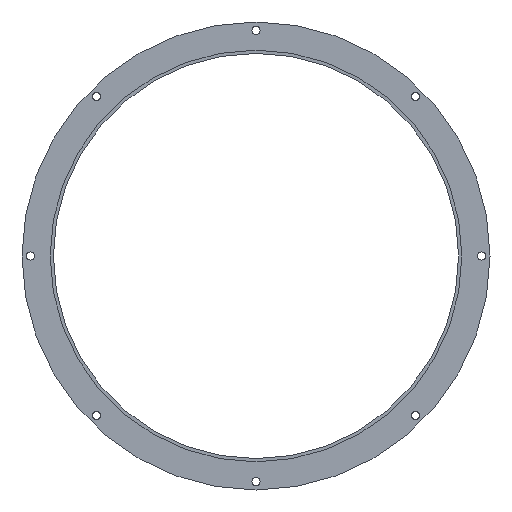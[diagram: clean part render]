
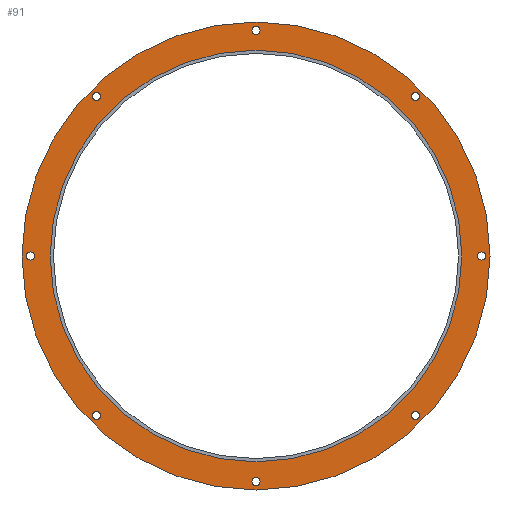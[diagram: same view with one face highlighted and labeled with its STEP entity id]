
A CAD part, front view. The second image highlights one B-rep face of the part: STEP entity #91.
In plain terms, the highlighted planar face has unit normal (0, -1, 0).
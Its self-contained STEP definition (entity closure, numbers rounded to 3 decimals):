
#91=ADVANCED_FACE('',(#179,#180,#181,#182,#183,#184,#185,#186,#187,#188),#189,.F.);
#179=FACE_BOUND('',#280,.T.);
#180=FACE_BOUND('',#281,.T.);
#181=FACE_BOUND('',#282,.T.);
#182=FACE_BOUND('',#283,.T.);
#183=FACE_BOUND('',#284,.T.);
#184=FACE_BOUND('',#285,.T.);
#185=FACE_BOUND('',#286,.T.);
#186=FACE_BOUND('',#287,.T.);
#187=FACE_OUTER_BOUND('',#288,.T.);
#188=FACE_BOUND('',#289,.T.);
#189=PLANE('',#290);
#280=EDGE_LOOP('',(#480,#481));
#281=EDGE_LOOP('',(#482,#483));
#282=EDGE_LOOP('',(#484,#485));
#283=EDGE_LOOP('',(#486,#487));
#284=EDGE_LOOP('',(#488,#489));
#285=EDGE_LOOP('',(#490,#491));
#286=EDGE_LOOP('',(#492,#493));
#287=EDGE_LOOP('',(#494,#495));
#288=EDGE_LOOP('',(#496,#497));
#289=EDGE_LOOP('',(#498,#499));
#290=AXIS2_PLACEMENT_3D('',#500,#501,#502);
#480=ORIENTED_EDGE('',*,*,#595,.T.);
#481=ORIENTED_EDGE('',*,*,#600,.T.);
#482=ORIENTED_EDGE('',*,*,#590,.T.);
#483=ORIENTED_EDGE('',*,*,#603,.T.);
#484=ORIENTED_EDGE('',*,*,#585,.T.);
#485=ORIENTED_EDGE('',*,*,#606,.T.);
#486=ORIENTED_EDGE('',*,*,#580,.T.);
#487=ORIENTED_EDGE('',*,*,#609,.T.);
#488=ORIENTED_EDGE('',*,*,#575,.T.);
#489=ORIENTED_EDGE('',*,*,#612,.T.);
#490=ORIENTED_EDGE('',*,*,#570,.T.);
#491=ORIENTED_EDGE('',*,*,#615,.T.);
#492=ORIENTED_EDGE('',*,*,#565,.T.);
#493=ORIENTED_EDGE('',*,*,#618,.T.);
#494=ORIENTED_EDGE('',*,*,#560,.T.);
#495=ORIENTED_EDGE('',*,*,#621,.T.);
#496=ORIENTED_EDGE('',*,*,#547,.F.);
#497=ORIENTED_EDGE('',*,*,#629,.F.);
#498=ORIENTED_EDGE('',*,*,#552,.F.);
#499=ORIENTED_EDGE('',*,*,#626,.F.);
#500=CARTESIAN_POINT('',(0.0,-4.0,0.));
#501=DIRECTION('',(0.0,1.0,0.));
#502=DIRECTION('',(1.0,0.0,0.0));
#547=EDGE_CURVE('',#640,#636,#642,.T.);
#552=EDGE_CURVE('',#649,#645,#651,.T.);
#560=EDGE_CURVE('',#665,#662,#666,.T.);
#565=EDGE_CURVE('',#674,#671,#675,.T.);
#570=EDGE_CURVE('',#683,#680,#684,.T.);
#575=EDGE_CURVE('',#692,#689,#693,.T.);
#580=EDGE_CURVE('',#701,#698,#702,.T.);
#585=EDGE_CURVE('',#710,#707,#711,.T.);
#590=EDGE_CURVE('',#719,#716,#720,.T.);
#595=EDGE_CURVE('',#728,#725,#729,.T.);
#600=EDGE_CURVE('',#725,#728,#735,.T.);
#603=EDGE_CURVE('',#716,#719,#738,.T.);
#606=EDGE_CURVE('',#707,#710,#741,.T.);
#609=EDGE_CURVE('',#698,#701,#744,.T.);
#612=EDGE_CURVE('',#689,#692,#747,.T.);
#615=EDGE_CURVE('',#680,#683,#750,.T.);
#618=EDGE_CURVE('',#671,#674,#753,.T.);
#621=EDGE_CURVE('',#662,#665,#756,.T.);
#626=EDGE_CURVE('',#645,#649,#761,.T.);
#629=EDGE_CURVE('',#636,#640,#764,.T.);
#636=VERTEX_POINT('',#771);
#640=VERTEX_POINT('',#776);
#642=CIRCLE('',#779,290.5);
#645=VERTEX_POINT('',#782);
#649=VERTEX_POINT('',#787);
#651=CIRCLE('',#790,255.5);
#662=VERTEX_POINT('',#803);
#665=VERTEX_POINT('',#807);
#666=CIRCLE('',#808,5.0);
#671=VERTEX_POINT('',#814);
#674=VERTEX_POINT('',#818);
#675=CIRCLE('',#819,5.0);
#680=VERTEX_POINT('',#825);
#683=VERTEX_POINT('',#829);
#684=CIRCLE('',#830,5.0);
#689=VERTEX_POINT('',#836);
#692=VERTEX_POINT('',#840);
#693=CIRCLE('',#841,5.0);
#698=VERTEX_POINT('',#847);
#701=VERTEX_POINT('',#851);
#702=CIRCLE('',#852,5.0);
#707=VERTEX_POINT('',#858);
#710=VERTEX_POINT('',#862);
#711=CIRCLE('',#863,5.0);
#716=VERTEX_POINT('',#869);
#719=VERTEX_POINT('',#873);
#720=CIRCLE('',#874,5.0);
#725=VERTEX_POINT('',#880);
#728=VERTEX_POINT('',#884);
#729=CIRCLE('',#885,5.0);
#735=CIRCLE('',#892,5.0);
#738=CIRCLE('',#895,5.0);
#741=CIRCLE('',#898,5.0);
#744=CIRCLE('',#901,5.0);
#747=CIRCLE('',#904,5.0);
#750=CIRCLE('',#907,5.0);
#753=CIRCLE('',#910,5.0);
#756=CIRCLE('',#913,5.0);
#761=CIRCLE('',#918,255.5);
#764=CIRCLE('',#921,290.5);
#771=CARTESIAN_POINT('',(290.5,-4.0,0.));
#776=CARTESIAN_POINT('',(-290.5,-4.0,0.));
#779=AXIS2_PLACEMENT_3D('',#931,#932,#933);
#782=CARTESIAN_POINT('',(255.5,-4.0,0.));
#787=CARTESIAN_POINT('',(-255.5,-4.0,0.));
#790=AXIS2_PLACEMENT_3D('',#939,#940,#941);
#803=CARTESIAN_POINT('',(285.0,-4.0,0.));
#807=CARTESIAN_POINT('',(275.0,-4.0,0.));
#808=AXIS2_PLACEMENT_3D('',#951,#952,#953);
#814=CARTESIAN_POINT('',(201.525,-4.,201.525));
#818=CARTESIAN_POINT('',(194.454,-4.,194.454));
#819=AXIS2_PLACEMENT_3D('',#959,#960,#961);
#825=CARTESIAN_POINT('',(0.,-4.,285.0));
#829=CARTESIAN_POINT('',(0.,-4.,275.0));
#830=AXIS2_PLACEMENT_3D('',#967,#968,#969);
#836=CARTESIAN_POINT('',(-201.525,-4.,201.525));
#840=CARTESIAN_POINT('',(-194.454,-4.,194.454));
#841=AXIS2_PLACEMENT_3D('',#975,#976,#977);
#847=CARTESIAN_POINT('',(-285.0,-4.0,0.));
#851=CARTESIAN_POINT('',(-275.0,-4.0,0.));
#852=AXIS2_PLACEMENT_3D('',#983,#984,#985);
#858=CARTESIAN_POINT('',(-201.525,-4.,-201.525));
#862=CARTESIAN_POINT('',(-194.454,-4.,-194.454));
#863=AXIS2_PLACEMENT_3D('',#991,#992,#993);
#869=CARTESIAN_POINT('',(0.,-4.,-285.0));
#873=CARTESIAN_POINT('',(0.,-4.,-275.0));
#874=AXIS2_PLACEMENT_3D('',#999,#1000,#1001);
#880=CARTESIAN_POINT('',(201.525,-4.,-201.525));
#884=CARTESIAN_POINT('',(194.454,-4.,-194.454));
#885=AXIS2_PLACEMENT_3D('',#1007,#1008,#1009);
#892=AXIS2_PLACEMENT_3D('',#1017,#1018,#1019);
#895=AXIS2_PLACEMENT_3D('',#1023,#1024,#1025);
#898=AXIS2_PLACEMENT_3D('',#1029,#1030,#1031);
#901=AXIS2_PLACEMENT_3D('',#1035,#1036,#1037);
#904=AXIS2_PLACEMENT_3D('',#1041,#1042,#1043);
#907=AXIS2_PLACEMENT_3D('',#1047,#1048,#1049);
#910=AXIS2_PLACEMENT_3D('',#1053,#1054,#1055);
#913=AXIS2_PLACEMENT_3D('',#1059,#1060,#1061);
#918=AXIS2_PLACEMENT_3D('',#1068,#1069,#1070);
#921=AXIS2_PLACEMENT_3D('',#1074,#1075,#1076);
#931=CARTESIAN_POINT('',(0.0,-4.0,0.));
#932=DIRECTION('',(0.0,1.0,0.));
#933=DIRECTION('',(1.0,0.0,0.0));
#939=CARTESIAN_POINT('',(0.0,-4.0,0.));
#940=DIRECTION('',(0.0,-1.0,0.));
#941=DIRECTION('',(1.0,0.0,0.0));
#951=CARTESIAN_POINT('',(280.0,-4.0,0.));
#952=DIRECTION('',(0.0,1.0,0.));
#953=DIRECTION('',(1.0,0.0,0.0));
#959=CARTESIAN_POINT('',(197.99,-4.,197.99));
#960=DIRECTION('',(0.0,1.0,0.));
#961=DIRECTION('',(0.707,0.,0.707));
#967=CARTESIAN_POINT('',(0.,-4.,280.0));
#968=DIRECTION('',(0.0,1.0,0.));
#969=DIRECTION('',(0.,0.,1.0));
#975=CARTESIAN_POINT('',(-197.99,-4.,197.99));
#976=DIRECTION('',(0.0,1.0,0.));
#977=DIRECTION('',(-0.707,0.,0.707));
#983=CARTESIAN_POINT('',(-280.0,-4.0,0.));
#984=DIRECTION('',(0.0,1.0,0.));
#985=DIRECTION('',(-1.0,0.,0.));
#991=CARTESIAN_POINT('',(-197.99,-4.,-197.99));
#992=DIRECTION('',(0.,1.0,0.));
#993=DIRECTION('',(-0.707,0.,-0.707));
#999=CARTESIAN_POINT('',(0.,-4.,-280.0));
#1000=DIRECTION('',(0.0,1.0,0.));
#1001=DIRECTION('',(0.,0.,-1.0));
#1007=CARTESIAN_POINT('',(197.99,-4.,-197.99));
#1008=DIRECTION('',(0.0,1.0,0.));
#1009=DIRECTION('',(0.707,0.,-0.707));
#1017=CARTESIAN_POINT('',(197.99,-4.,-197.99));
#1018=DIRECTION('',(0.0,1.0,0.));
#1019=DIRECTION('',(0.707,0.,-0.707));
#1023=CARTESIAN_POINT('',(0.,-4.,-280.0));
#1024=DIRECTION('',(0.0,1.0,0.));
#1025=DIRECTION('',(0.,0.,-1.0));
#1029=CARTESIAN_POINT('',(-197.99,-4.,-197.99));
#1030=DIRECTION('',(0.,1.0,0.));
#1031=DIRECTION('',(-0.707,0.,-0.707));
#1035=CARTESIAN_POINT('',(-280.0,-4.0,0.));
#1036=DIRECTION('',(0.0,1.0,0.));
#1037=DIRECTION('',(-1.0,0.,0.));
#1041=CARTESIAN_POINT('',(-197.99,-4.,197.99));
#1042=DIRECTION('',(0.0,1.0,0.));
#1043=DIRECTION('',(-0.707,0.,0.707));
#1047=CARTESIAN_POINT('',(0.,-4.,280.0));
#1048=DIRECTION('',(0.0,1.0,0.));
#1049=DIRECTION('',(0.,0.,1.0));
#1053=CARTESIAN_POINT('',(197.99,-4.,197.99));
#1054=DIRECTION('',(0.0,1.0,0.));
#1055=DIRECTION('',(0.707,0.,0.707));
#1059=CARTESIAN_POINT('',(280.0,-4.0,0.));
#1060=DIRECTION('',(0.0,1.0,0.));
#1061=DIRECTION('',(1.0,0.0,0.0));
#1068=CARTESIAN_POINT('',(0.0,-4.0,0.));
#1069=DIRECTION('',(0.0,-1.0,0.));
#1070=DIRECTION('',(1.0,0.0,0.0));
#1074=CARTESIAN_POINT('',(0.0,-4.0,0.));
#1075=DIRECTION('',(0.0,1.0,0.));
#1076=DIRECTION('',(1.0,0.0,0.0));
